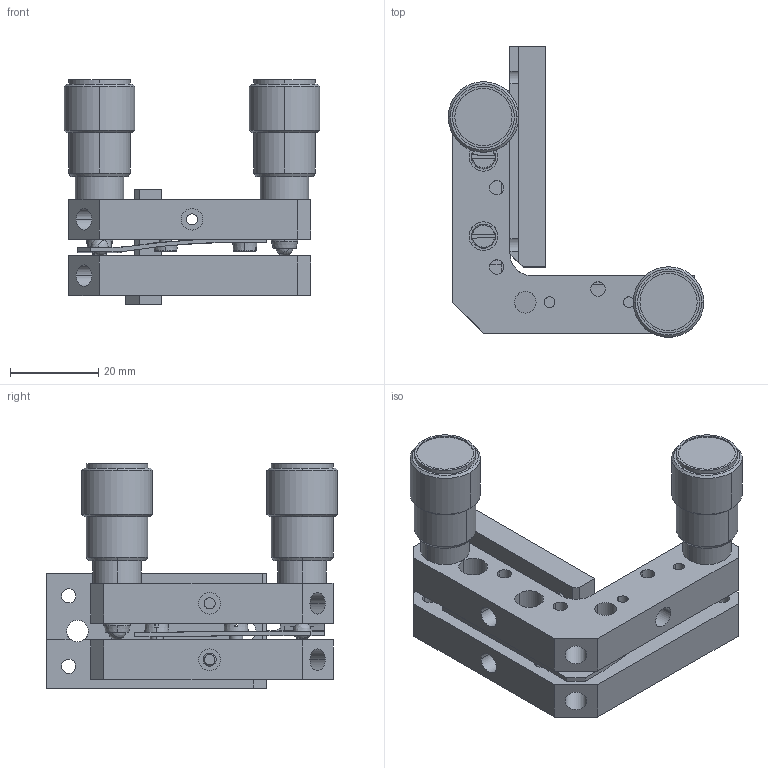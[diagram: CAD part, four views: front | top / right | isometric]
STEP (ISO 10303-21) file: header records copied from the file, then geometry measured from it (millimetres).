
FILE_DESCRIPTION (( 'STEP AP203' ), '1' );
FILE_NAME ('5PM57.STEP', '2010-11-26T06:56:47', ( 'Darius' ), ( '' ), 'SwSTEP 2.0', 'SolidWorks 2003240', '' );
FILE_SCHEMA (( 'CONFIG_CONTROL_DESIGN' ));
Length unit declared in the file: millimetre
Products named in the file (1): 5PM57
Bounding box: 58 x 66 x 51 mm (x, y, z)
Volume: 37696.9 mm3; surface area: 19134.3 mm2
Topology: 1 solids, 5 shells, 516 faces, 1352 edges, 890 vertices
Faces by surface type: plane 201, bspline 144, cylinder 133, cone 38
Entity records: 26099 total; most frequent: CARTESIAN_POINT 14028, ORIENTED_EDGE 2680, DIRECTION 2111, EDGE_CURVE 1340, VERTEX_POINT 890, AXIS2_PLACEMENT_3D 730, VECTOR 651, LINE 651
